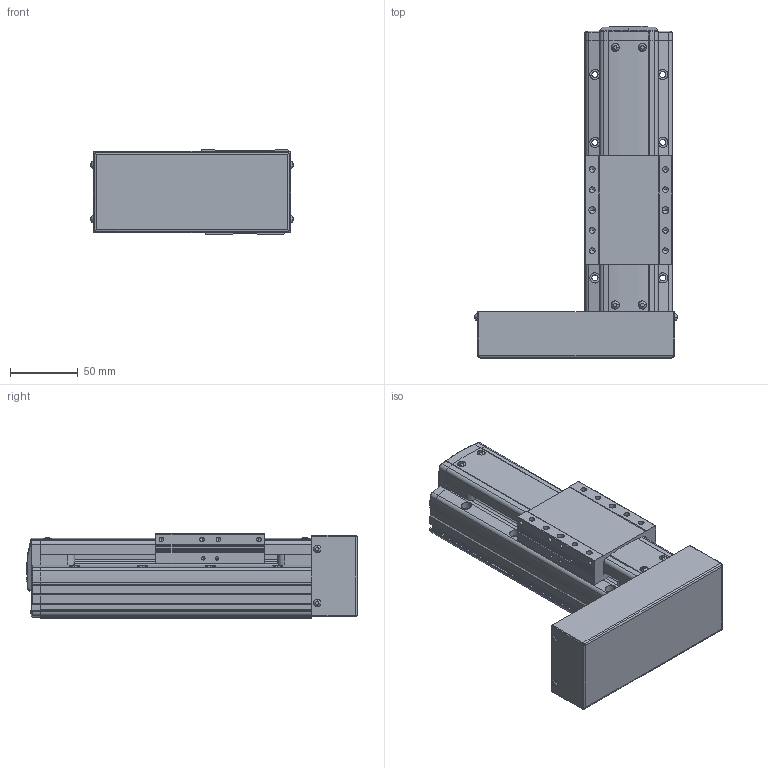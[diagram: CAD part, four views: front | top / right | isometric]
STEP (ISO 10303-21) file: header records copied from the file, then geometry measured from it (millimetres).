
FILE_DESCRIPTION(('STEP AP214'),'1');
FILE_NAME('Z:/Web/3D/PSA65/STP/PSA65-050 (3D)/PSA65ㅁㅁ-050PL.stp','2014-06-25T02:41:10',(' '),(' '),'Spatial InterOp 3D',' ',' ');
FILE_SCHEMA(('automotive_design'));
Length unit declared in the file: millimetre
Products named in the file (49): SLIDE; RRCV-PA060; 1; 2; 3; 4; 5; 6; 7; 8; 9; 10; 11; 12; 13; 14; 15; 16; 17; 18; 19; 20; 21; 22; 23; 24; 25; 26; 27; 28; 29; 30; 31; 스크루 : Round - M3.0 x 8.0; RN8 x 0.75; SHAFT-SAN65; BASE; 스크루 : Round - M3.0 x 6.0; BTCV-SAN65; BHCS M3 X 6L
Bounding box: 149.13 x 244.8 x 62 mm (x, y, z)
Volume: 950476.7 mm3; surface area: 147745.3 mm2
Topology: 49 solids, 49 shells, 1661 faces, 4391 edges, 2809 vertices
Faces by surface type: plane 1028, cylinder 423, cone 145, sphere 30, bspline 19, torus 16
Entity records: 66002 total; most frequent: CARTESIAN_POINT 10513, DIRECTION 8700, ORIENTED_EDGE 8590, EDGE_CURVE 4295, LINE 3108, VECTOR 3108, VERTEX_POINT 2809, AXIS2_PLACEMENT_3D 2796
